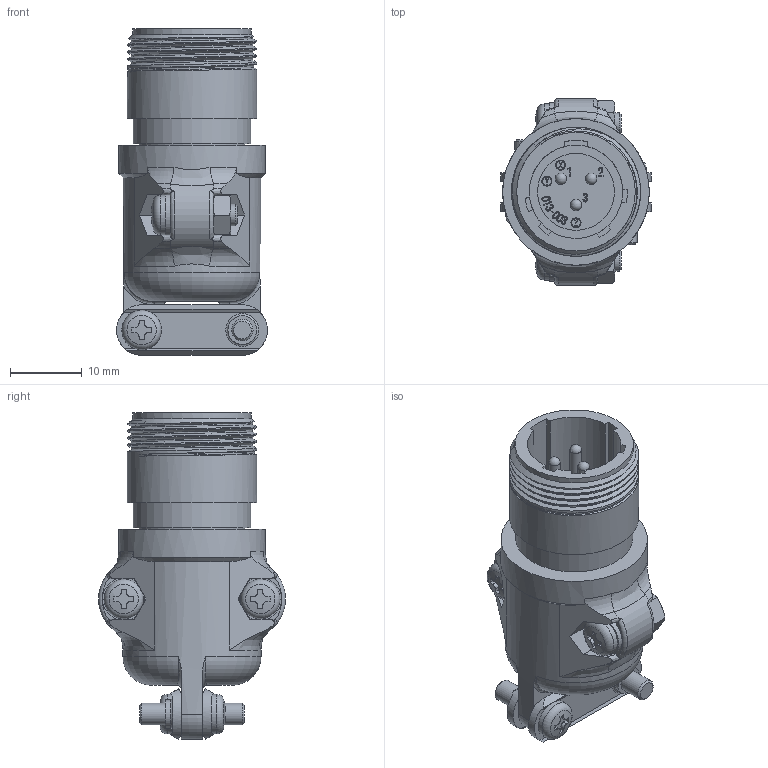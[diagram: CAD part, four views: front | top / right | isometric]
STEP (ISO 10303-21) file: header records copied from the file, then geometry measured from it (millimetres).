
FILE_DESCRIPTION (( 'STEP AP203' ), '1' );
FILE_NAME ('JMCR1303M-D.STEP', '2021-06-18T04:52:38', ( '' ), ( '' ), 'SwSTEP 2.0', 'SolidWorks 2018', '' );
FILE_SCHEMA (( 'CONFIG_CONTROL_DESIGN' ));
Length unit declared in the file: millimetre
Products named in the file (1): JMCR1303M-D
Bounding box: 21 x 26 x 45.4 mm (x, y, z)
Volume: 7107.7 mm3; surface area: 6475.5 mm2
Topology: 1 solids, 5 shells, 711 faces, 1930 edges, 1268 vertices
Faces by surface type: plane 334, bspline 201, cylinder 116, torus 38, cone 15, sphere 7
Full cylindrical faces by diameter (mm): 1.2 x4, 1.4 x4, 1.6 x3, 1.7 x3, 2.4 x7, 3 x8, 3.3 x2, 3.5 x2, 4 x2, 5.5 x2, 8.2 x1, 10.3 x1, 10.7 x1, 12.8 x1, 13 x1, 14.8 x1, 15.2 x1, 16.3 x1, 16.5 x1, 17.96 x4, 19.2 x1, 20.4 x1
Entity records: 31966 total; most frequent: CARTESIAN_POINT 16129, ORIENTED_EDGE 3606, DIRECTION 2579, EDGE_CURVE 1803, VERTEX_POINT 1221, LINE 891, VECTOR 891, AXIS2_PLACEMENT_3D 844
